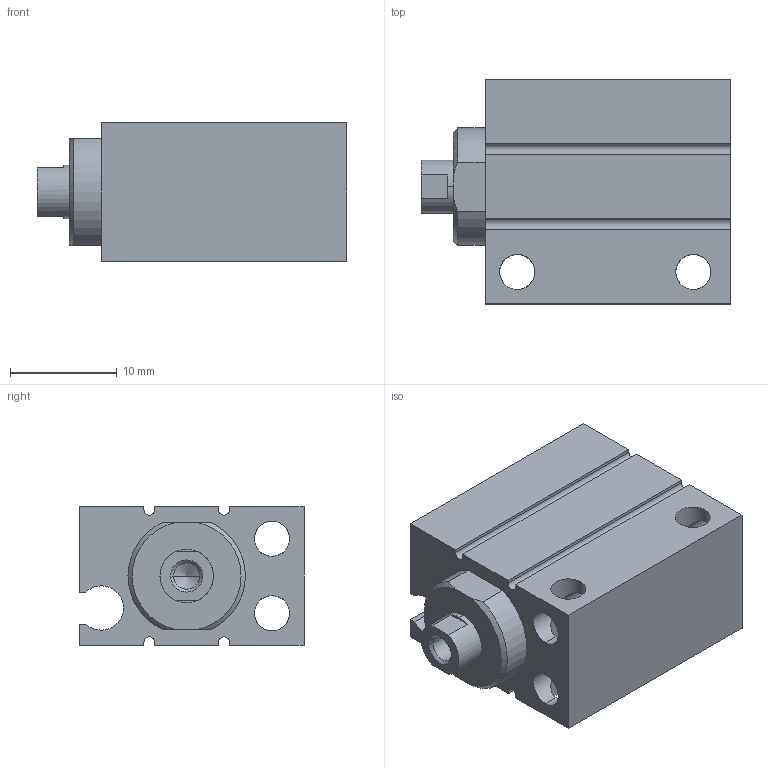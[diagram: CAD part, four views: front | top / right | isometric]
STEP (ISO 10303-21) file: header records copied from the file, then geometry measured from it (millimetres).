
FILE_DESCRIPTION (( 'STEP AP203' ), '1' );
FILE_NAME ('CLJB8-10.STEP', '2020-07-30T18:45:11', ( '' ), ( '' ), 'SwSTEP 2.0', 'SolidWorks 2019', '' );
FILE_SCHEMA (( 'CONFIG_CONTROL_DESIGN' ));
Length unit declared in the file: millimetre
Products named in the file (1): CLJB8-10
Bounding box: 29 x 21 x 13 mm (x, y, z)
Volume: 5334.2 mm3; surface area: 3969.4 mm2
Topology: 2 solids, 2 shells, 96 faces, 252 edges, 153 vertices
Faces by surface type: cylinder 49, plane 33, cone 14
Entity records: 2995 total; most frequent: CARTESIAN_POINT 604, ORIENTED_EDGE 492, DIRECTION 482, EDGE_CURVE 246, AXIS2_PLACEMENT_3D 175, VERTEX_POINT 153, LINE 132, VECTOR 132
